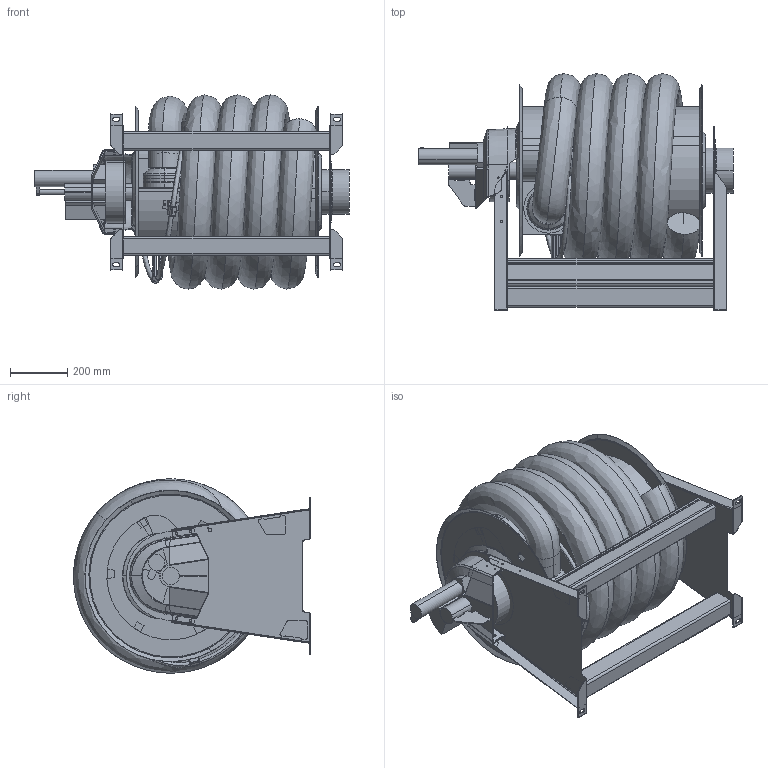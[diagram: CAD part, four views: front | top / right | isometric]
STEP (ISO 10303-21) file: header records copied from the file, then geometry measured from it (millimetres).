
FILE_DESCRIPTION((''),'2;1');
FILE_NAME('ASEM_65_100_7_5','2022-04-20T15:05:09',('Tomas Bellgran'),(''),'CREO PARAMETRIC BY PTC INC, 2018260','CREO PARAMETRIC BY PTC INC, 2018260','');
FILE_SCHEMA(('AUTOMOTIVE_DESIGN { 1 0 10303 214 1 1 1 1 }'));
Length unit declared in the file: millimetre
Products named in the file (25): 110534; 110536; 110801; 110541; 112850; 110528; 110591; 110651; G_ASE_DUMMY; 124129; G_ASL-EVO_150CON_BRACKET; GUIDE_100; 110660; 124298; ASEM_DRUM_65_100; AG_HOSE_100_115_75; 143740; 143700; 143550; 144299; 143702; 144230; 111192_NEW; 104504_L; ASEM_65_100_7_5
Assembly tree (28 placements, depth 4):
  ASEM_65_100_7_5
    110541
      110534
      110536
      110801  x2
    112850  x2
    ASEM_DRUM_65_100
      110528  x2
      110591
      110651
      G_ASL-EVO_150CON_BRACKET
        G_ASE_DUMMY
        124129
      GUIDE_100
      110660  x2
      124298
    AG_HOSE_100_115_75
    104504_L
      143740
      143702
        143700
        143550
        144299
      144230
      111192_NEW
Bounding box: 1102 x 830.5 x 681 mm (x, y, z)
Volume: 187842695.5 mm3; surface area: 9550654.6 mm2
Topology: 23 solids, 26 shells, 1039 faces, 2456 edges, 1475 vertices
Faces by surface type: plane 539, cylinder 315, bspline 85, torus 68, cone 32
Entity records: 51608 total; most frequent: CARTESIAN_POINT 17171, DIRECTION 4532, ORIENTED_EDGE 4028, EDGE_CURVE 2018, PRESENTATION_STYLE_ASSIGNMENT 1639, STYLED_ITEM 1638, AXIS2_PLACEMENT_3D 1609, CURVE_STYLE 1419
